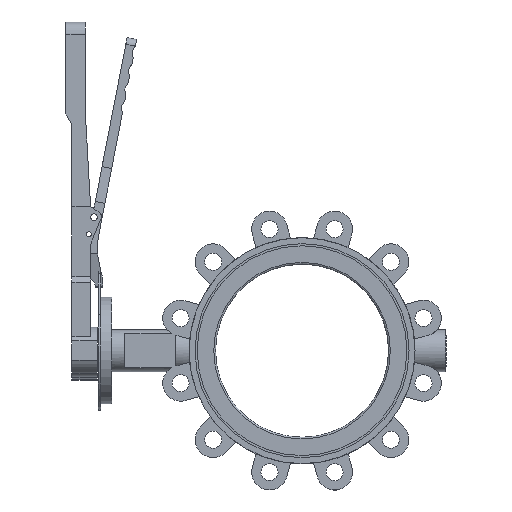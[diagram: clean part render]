
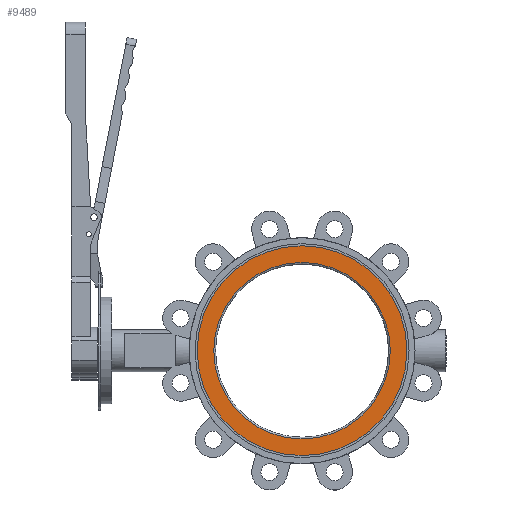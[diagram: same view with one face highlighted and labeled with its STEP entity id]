
A CAD part, left-side view. The second image highlights one B-rep face of the part: STEP entity #9489.
In plain terms, the highlighted planar face has unit normal (-1, 0, 0).
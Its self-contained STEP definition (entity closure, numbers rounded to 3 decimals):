
#162 = CARTESIAN_POINT ( 'NONE',  ( -32., 0., 103.501 ) ) ;
#479 = FACE_OUTER_BOUND ( 'NONE', #5914, .T. ) ;
#1547 = EDGE_LOOP ( 'NONE', ( #11946 ) ) ;
#2144 = CIRCLE ( 'NONE', #2548, 123. ) ;
#2548 = AXIS2_PLACEMENT_3D ( 'NONE', #6056, #10662, #4993 ) ;
#3035 = DIRECTION ( 'NONE',  ( 1., 0., 0. ) ) ;
#3878 = CARTESIAN_POINT ( 'NONE',  ( -32., 123., 0. ) ) ;
#4629 = CARTESIAN_POINT ( 'NONE',  ( -32., 0., 0. ) ) ;
#4636 = CARTESIAN_POINT ( 'NONE',  ( -32., 0., 123. ) ) ;
#4993 = DIRECTION ( 'NONE',  ( 0., 0., 1. ) ) ;
#5392 = ORIENTED_EDGE ( 'NONE', *, *, #9008, .T. ) ;
#5914 = EDGE_LOOP ( 'NONE', ( #5392 ) ) ;
#6039 = VERTEX_POINT ( 'NONE', #4636 ) ;
#6056 = CARTESIAN_POINT ( 'NONE',  ( -32., 0., 0. ) ) ;
#6237 = AXIS2_PLACEMENT_3D ( 'NONE', #3878, #3035, #9586 ) ;
#6505 = FACE_BOUND ( 'NONE', #1547, .T. ) ;
#7958 = VERTEX_POINT ( 'NONE', #162 ) ;
#9008 = EDGE_CURVE ( 'NONE', #6039, #6039, #2144, .T. ) ;
#9489 = ADVANCED_FACE ( 'NONE', ( #6505, #479 ), #9499, .F. ) ;
#9499 = PLANE ( 'NONE',  #6237 ) ;
#9586 = DIRECTION ( 'NONE',  ( 0., 0., -1. ) ) ;
#10269 = AXIS2_PLACEMENT_3D ( 'NONE', #4629, #11125, #12039 ) ;
#10662 = DIRECTION ( 'NONE',  ( -1., 0., 0. ) ) ;
#10748 = CIRCLE ( 'NONE', #10269, 103.501 ) ;
#11125 = DIRECTION ( 'NONE',  ( -1., 0., 0. ) ) ;
#11396 = EDGE_CURVE ( 'NONE', #7958, #7958, #10748, .T. ) ;
#11946 = ORIENTED_EDGE ( 'NONE', *, *, #11396, .F. ) ;
#12039 = DIRECTION ( 'NONE',  ( 0., 0., 1. ) ) ;
